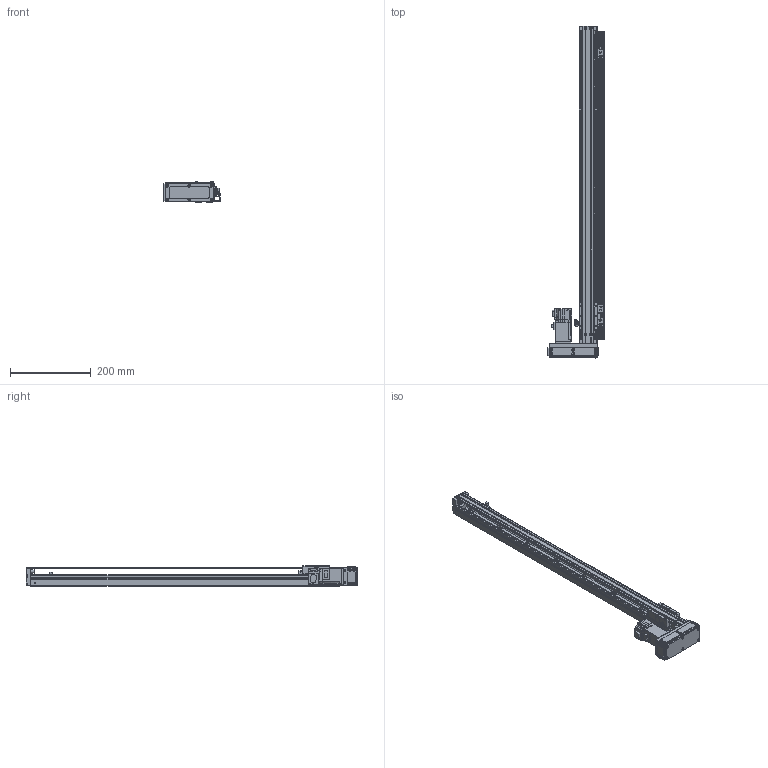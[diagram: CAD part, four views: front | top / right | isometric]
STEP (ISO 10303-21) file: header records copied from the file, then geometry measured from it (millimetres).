
FILE_DESCRIPTION(/* description */ ('MANUFACTURE'),/* implementation_level */ '2;1');
FILE_NAME(/* name */ '\\192.168.0.160\disk1\HAN SHIN Master\B-설계부문\C-표준\B-2024년\BC02-표준도면\+로봇 개선표준도면\표준 승인도 폴더 - 재작업\3D\HG45\병렬-L\HG45-L10-N-0650-R10.stp',/* time_stamp */ '2024-03-05T12:40:34+09:00',/* author */ ('User'),/* organization */ (''),/* preprocessor_version */ 'ST-DEVELOPER v18.1',/* originating_system */ 'Autodesk Inventor 2022',/* authorisation */ 'LIP');
FILE_SCHEMA (('AUTOMOTIVE_DESIGN { 1 0 10303 214 3 1 1 }'));
Products named in the file (21): HG45-L10-N-0500-R10 - 간소화; HR45 S BASE; HR45 REAR BLOCK; HR45 FRONT BLOCK; HR45 STOPPER; HR45 SENSOR RAIL; HR45 SENSOR DOG; HC45 - TABLE (SFSR); HR45 UPCOVER-28mm; NIPPLE CAP(신규); hsr_ftht_A-M6F_grease_nipple_joint; HR45 MOTOR PLATE 100W; HR45 L,R MOTOR PLATE; hg-kr13_; 화살표; HR45 LR BELT COVER; HR45 ACRYL COVER(정면); HR45 ACRYL COVER(측면); HR45 ACRYL COVER(상하면); EE_SX674A; ESF1210 NUT
Assembly tree (27 placements, depth 2):
  HG45-L10-N-0500-R10 - 간소화
    HR45 S BASE
    HR45 REAR BLOCK
    HR45 FRONT BLOCK
    HR45 STOPPER  x4
    HR45 SENSOR RAIL
    HR45 SENSOR DOG
    EE_SX674A  x3
    HC45 - TABLE (SFSR)
    HR45 UPCOVER-28mm
    NIPPLE CAP(신규)
    hsr_ftht_A-M6F_grease_nipple_joint
    HR45 MOTOR PLATE 100W
    HR45 L,R MOTOR PLATE
    hg-kr13_
    화살표  x2
    HR45 LR BELT COVER
    HR45 ACRYL COVER(상하면)  x2
    HR45 ACRYL COVER(정면)
    HR45 ACRYL COVER(측면)
    ESF1210 NUT
Bounding box: 139.5 x 824 x 50 mm (x, y, z)
Volume: 822531.2 mm3; surface area: 449970.8 mm2
Topology: 27 solids, 27 shells, 2350 faces, 6432 edges, 4224 vertices
Faces by surface type: plane 1672, cylinder 524, cone 127, bspline 13, sphere 8, torus 6
Full cylindrical faces by diameter (mm): 1 x1, 2.013 x6, 2.459 x74, 2.5 x4, 3 x11, 3.242 x28, 3.4 x36, 3.5 x21, 4 x13, 4.134 x1, 4.5 x22, 4.917 x2, 5.6 x3, 5.9 x2, 6 x20, 6.5 x6, 8 x17, 9 x4, 10 x1, 12 x1, 13 x1, 15 x1, 18 x1, 22 x2, 24 x1, 26 x1, 30 x2
Entity records: 72301 total; most frequent: CARTESIAN_POINT 14101, ORIENTED_EDGE 11984, DIRECTION 11434, EDGE_CURVE 5992, LINE 4700, VECTOR 4700, VERTEX_POINT 3977, AXIS2_PLACEMENT_3D 3367
